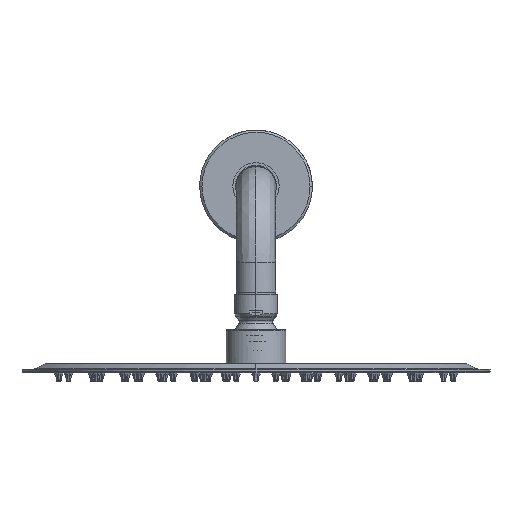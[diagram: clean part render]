
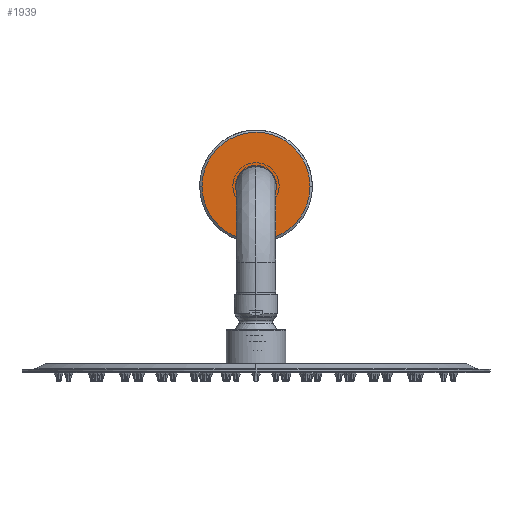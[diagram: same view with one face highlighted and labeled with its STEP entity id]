
A CAD part, front view. The second image highlights one B-rep face of the part: STEP entity #1939.
In plain terms, the highlighted planar face has unit normal (0, -1, 0).
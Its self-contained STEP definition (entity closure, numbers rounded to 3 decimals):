
#592=FACE_BOUND('',#5016,.T.);
#1939=ADVANCED_FACE('',(#3290,#592),#18524,.T.);
#3290=FACE_OUTER_BOUND('',#5015,.T.);
#5015=EDGE_LOOP('',(#10771,#10772));
#5016=EDGE_LOOP('',(#10773,#10774));
#10771=ORIENTED_EDGE('',*,*,#13674,.F.);
#10772=ORIENTED_EDGE('',*,*,#13679,.F.);
#10773=ORIENTED_EDGE('',*,*,#13683,.T.);
#10774=ORIENTED_EDGE('',*,*,#13685,.T.);
#13674=EDGE_CURVE('',#18315,#18312,#16568,.T.);
#13679=EDGE_CURVE('',#18312,#18315,#16571,.T.);
#13683=EDGE_CURVE('',#18319,#18318,#16575,.T.);
#13685=EDGE_CURVE('',#18318,#18319,#16577,.T.);
#16568=(
BOUNDED_CURVE()
B_SPLINE_CURVE(2,(#45960,#45961,#45962,#45963,#45964),.UNSPECIFIED.,.F.,
 .F.)
B_SPLINE_CURVE_WITH_KNOTS((3,2,3),(-78.54,-39.27,
0.),.UNSPECIFIED.)
CURVE()
GEOMETRIC_REPRESENTATION_ITEM()
RATIONAL_B_SPLINE_CURVE((1.,0.707,1.,0.707,1.))
REPRESENTATION_ITEM('')
);
#16571=(
BOUNDED_CURVE()
B_SPLINE_CURVE(2,(#45979,#45980,#45981,#45982,#45983),.UNSPECIFIED.,.F.,
 .F.)
B_SPLINE_CURVE_WITH_KNOTS((3,2,3),(-157.08,-117.81,-78.54),
 .UNSPECIFIED.)
CURVE()
GEOMETRIC_REPRESENTATION_ITEM()
RATIONAL_B_SPLINE_CURVE((1.,0.707,1.,0.707,1.))
REPRESENTATION_ITEM('')
);
#16575=(
BOUNDED_CURVE()
B_SPLINE_CURVE(2,(#45996,#45997,#45998,#45999,#46000),.UNSPECIFIED.,.F.,
 .F.)
B_SPLINE_CURVE_WITH_KNOTS((3,2,3),(-43.183,-21.591,0.),
 .UNSPECIFIED.)
CURVE()
GEOMETRIC_REPRESENTATION_ITEM()
RATIONAL_B_SPLINE_CURVE((1.,0.707,1.,0.707,1.))
REPRESENTATION_ITEM('')
);
#16577=(
BOUNDED_CURVE()
B_SPLINE_CURVE(2,(#46003,#46004,#46005,#46006,#46007),.UNSPECIFIED.,.F.,
 .F.)
B_SPLINE_CURVE_WITH_KNOTS((3,2,3),(-43.183,-21.591,
0.),.UNSPECIFIED.)
CURVE()
GEOMETRIC_REPRESENTATION_ITEM()
RATIONAL_B_SPLINE_CURVE((1.,0.707,1.,0.707,1.))
REPRESENTATION_ITEM('')
);
#18312=VERTEX_POINT('',#45941);
#18315=VERTEX_POINT('',#45944);
#18318=VERTEX_POINT('',#45947);
#18319=VERTEX_POINT('',#45948);
#18524=PLANE('',#20715);
#20715=AXIS2_PLACEMENT_3D('',#45926,#21507,$);
#21507=DIRECTION('',(0.,-1.,0.));
#45926=CARTESIAN_POINT('',(-34.572,-5.,1034.572));
#45941=CARTESIAN_POINT('',(28.8,-5.,1000.));
#45944=CARTESIAN_POINT('',(-28.8,-5.,1000.));
#45947=CARTESIAN_POINT('',(10.796,-5.,1000.));
#45948=CARTESIAN_POINT('',(-10.796,-5.,1000.));
#45960=CARTESIAN_POINT('',(-28.8,-5.,1000.));
#45961=CARTESIAN_POINT('',(-28.8,-5.,1028.8));
#45962=CARTESIAN_POINT('',(0.,-5.,1028.8));
#45963=CARTESIAN_POINT('',(28.8,-5.,1028.8));
#45964=CARTESIAN_POINT('',(28.8,-5.,1000.));
#45979=CARTESIAN_POINT('',(28.8,-5.,1000.));
#45980=CARTESIAN_POINT('',(28.8,-5.,971.2));
#45981=CARTESIAN_POINT('',(0.,-5.,971.2));
#45982=CARTESIAN_POINT('',(-28.8,-5.,971.2));
#45983=CARTESIAN_POINT('',(-28.8,-5.,1000.));
#45996=CARTESIAN_POINT('',(-10.796,-5.,1000.));
#45997=CARTESIAN_POINT('',(-10.796,-5.,1010.796));
#45998=CARTESIAN_POINT('',(0.,-5.,1010.796));
#45999=CARTESIAN_POINT('',(10.796,-5.,1010.796));
#46000=CARTESIAN_POINT('',(10.796,-5.,1000.));
#46003=CARTESIAN_POINT('',(10.796,-5.,1000.));
#46004=CARTESIAN_POINT('',(10.796,-5.,989.204));
#46005=CARTESIAN_POINT('',(0.,-5.,989.204));
#46006=CARTESIAN_POINT('',(-10.796,-5.,989.204));
#46007=CARTESIAN_POINT('',(-10.796,-5.,1000.));
